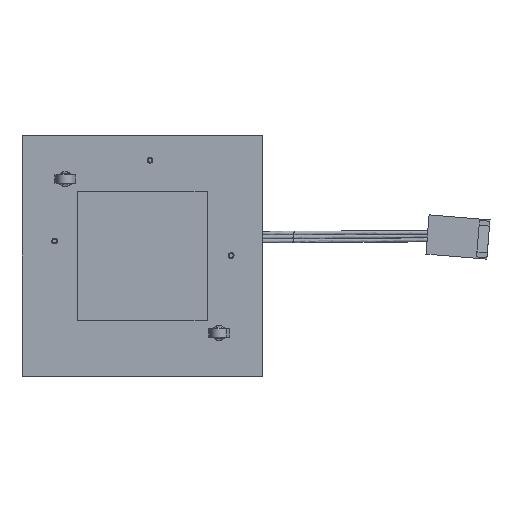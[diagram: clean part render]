
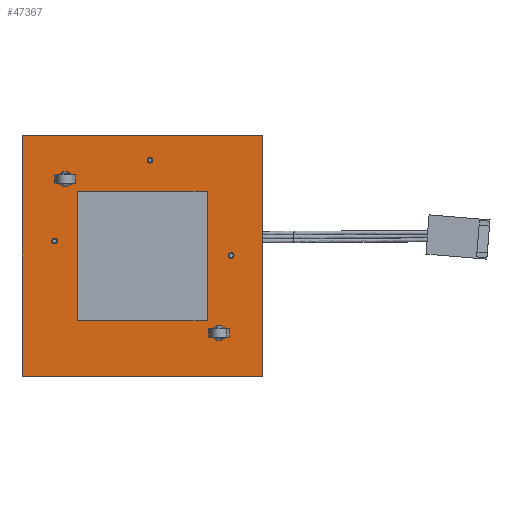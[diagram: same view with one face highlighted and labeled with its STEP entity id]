
A CAD part, front view. The second image highlights one B-rep face of the part: STEP entity #47367.
In plain terms, the highlighted planar face has unit normal (0, -1, 0).
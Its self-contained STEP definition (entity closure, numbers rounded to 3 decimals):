
#29 = VERTEX_POINT ( 'NONE', #31245 ) ;
#762 = ORIENTED_EDGE ( 'NONE', *, *, #18893, .T. ) ;
#968 = DIRECTION ( 'NONE',  ( 0., 1., 0. ) ) ;
#1519 = DIRECTION ( 'NONE',  ( 0., 0., -1. ) ) ;
#1526 = ORIENTED_EDGE ( 'NONE', *, *, #4429, .T. ) ;
#2016 = ORIENTED_EDGE ( 'NONE', *, *, #23884, .T. ) ;
#2365 = EDGE_CURVE ( 'NONE', #11297, #24873, #37771, .T. ) ;
#2623 = CIRCLE ( 'NONE', #53755, 0.6 ) ;
#2926 = DIRECTION ( 'NONE',  ( 0., 1., 0. ) ) ;
#3634 = EDGE_LOOP ( 'NONE', ( #39857, #13831 ) ) ;
#3747 = DIRECTION ( 'NONE',  ( 0., -1., 0. ) ) ;
#4184 = EDGE_CURVE ( 'NONE', #48953, #16510, #2623, .T. ) ;
#4429 = EDGE_CURVE ( 'NONE', #16510, #48953, #31728, .T. ) ;
#4550 = CIRCLE ( 'NONE', #35458, 1.6 ) ;
#4578 = CARTESIAN_POINT ( 'NONE',  ( 18.5, 0., -0.506 ) ) ;
#4762 = ORIENTED_EDGE ( 'NONE', *, *, #4184, .T. ) ;
#5336 = ORIENTED_EDGE ( 'NONE', *, *, #34346, .T. ) ;
#5402 = CARTESIAN_POINT ( 'NONE',  ( -16., 0., 16. ) ) ;
#5416 = CARTESIAN_POINT ( 'NONE',  ( -16., 0., 14.4 ) ) ;
#5977 = AXIS2_PLACEMENT_3D ( 'NONE', #18688, #40246, #19489 ) ;
#6447 = DIRECTION ( 'NONE',  ( 0., 0., -1. ) ) ;
#7012 = VECTOR ( 'NONE', #22236, 1000. ) ;
#7310 = FACE_OUTER_BOUND ( 'NONE', #36623, .T. ) ;
#7371 = CARTESIAN_POINT ( 'NONE',  ( -16., 0., 16. ) ) ;
#7533 = AXIS2_PLACEMENT_3D ( 'NONE', #49565, #11721, #25501 ) ;
#7587 = VERTEX_POINT ( 'NONE', #37886 ) ;
#7597 = FACE_BOUND ( 'NONE', #3634, .T. ) ;
#7876 = FACE_BOUND ( 'NONE', #32081, .T. ) ;
#7916 = DIRECTION ( 'NONE',  ( 0., 1., 0. ) ) ;
#8057 = DIRECTION ( 'NONE',  ( 0., 0., -1. ) ) ;
#8633 = CARTESIAN_POINT ( 'NONE',  ( -25., 0., 25. ) ) ;
#8721 = AXIS2_PLACEMENT_3D ( 'NONE', #47170, #38349, #13727 ) ;
#8723 = CARTESIAN_POINT ( 'NONE',  ( -18.236, 0., 3.115 ) ) ;
#9424 = CARTESIAN_POINT ( 'NONE',  ( -16., 0., 17.6 ) ) ;
#10978 = AXIS2_PLACEMENT_3D ( 'NONE', #7371, #11771, #53497 ) ;
#11297 = VERTEX_POINT ( 'NONE', #16162 ) ;
#11523 = CARTESIAN_POINT ( 'NONE',  ( 1.639, 0., 19.333 ) ) ;
#11721 = DIRECTION ( 'NONE',  ( 0., 1., 0. ) ) ;
#11771 = DIRECTION ( 'NONE',  ( 0., 1., 0. ) ) ;
#12097 = CARTESIAN_POINT ( 'NONE',  ( 1.639, 0., 19.933 ) ) ;
#12410 = EDGE_CURVE ( 'NONE', #7587, #47062, #19313, .T. ) ;
#13640 = VECTOR ( 'NONE', #42910, 1000. ) ;
#13727 = DIRECTION ( 'NONE',  ( 0., 0., -1. ) ) ;
#13831 = ORIENTED_EDGE ( 'NONE', *, *, #47280, .T. ) ;
#14329 = CARTESIAN_POINT ( 'NONE',  ( -25., 0., -25. ) ) ;
#14333 = CIRCLE ( 'NONE', #45215, 0.6 ) ;
#14503 = LINE ( 'NONE', #31366, #35693 ) ;
#14665 = EDGE_CURVE ( 'NONE', #24706, #20528, #54288, .T. ) ;
#15037 = ORIENTED_EDGE ( 'NONE', *, *, #53919, .F. ) ;
#15526 = EDGE_CURVE ( 'NONE', #47062, #30606, #17503, .T. ) ;
#15892 = CARTESIAN_POINT ( 'NONE',  ( 0., 0., 0. ) ) ;
#16162 = CARTESIAN_POINT ( 'NONE',  ( 16., 0., -17.6 ) ) ;
#16510 = VERTEX_POINT ( 'NONE', #34289 ) ;
#16596 = ORIENTED_EDGE ( 'NONE', *, *, #20378, .F. ) ;
#16618 = AXIS2_PLACEMENT_3D ( 'NONE', #36401, #2926, #49584 ) ;
#17503 = LINE ( 'NONE', #8633, #13640 ) ;
#17508 = CARTESIAN_POINT ( 'NONE',  ( 18.5, 0., 0.694 ) ) ;
#18688 = CARTESIAN_POINT ( 'NONE',  ( 18.5, 0., 0.094 ) ) ;
#18893 = EDGE_CURVE ( 'NONE', #24873, #11297, #32548, .T. ) ;
#19313 = LINE ( 'NONE', #14329, #24950 ) ;
#19489 = DIRECTION ( 'NONE',  ( 0., 0., -1. ) ) ;
#20309 = FACE_BOUND ( 'NONE', #29086, .T. ) ;
#20378 = EDGE_CURVE ( 'NONE', #29, #7587, #34444, .T. ) ;
#20385 = DIRECTION ( 'NONE',  ( 0., 1., 0. ) ) ;
#20528 = VERTEX_POINT ( 'NONE', #17508 ) ;
#20546 = EDGE_LOOP ( 'NONE', ( #4762, #1526 ) ) ;
#20863 = CARTESIAN_POINT ( 'NONE',  ( -25., 0., 25. ) ) ;
#21476 = CARTESIAN_POINT ( 'NONE',  ( -18.236, 0., 2.515 ) ) ;
#22236 = DIRECTION ( 'NONE',  ( 0., 0., -1. ) ) ;
#23884 = EDGE_CURVE ( 'NONE', #39793, #40144, #33957, .T. ) ;
#24706 = VERTEX_POINT ( 'NONE', #4578 ) ;
#24868 = ORIENTED_EDGE ( 'NONE', *, *, #49659, .T. ) ;
#24873 = VERTEX_POINT ( 'NONE', #32155 ) ;
#24950 = VECTOR ( 'NONE', #48032, 1000. ) ;
#25501 = DIRECTION ( 'NONE',  ( 0., 0., -1. ) ) ;
#28002 = ORIENTED_EDGE ( 'NONE', *, *, #12410, .F. ) ;
#28550 = VERTEX_POINT ( 'NONE', #11523 ) ;
#28914 = VERTEX_POINT ( 'NONE', #30790 ) ;
#28963 = DIRECTION ( 'NONE',  ( 0., 0., -1. ) ) ;
#29086 = EDGE_LOOP ( 'NONE', ( #49616, #762 ) ) ;
#29601 = DIRECTION ( 'NONE',  ( 0., 1., 0. ) ) ;
#30521 = AXIS2_PLACEMENT_3D ( 'NONE', #31339, #52331, #6447 ) ;
#30606 = VERTEX_POINT ( 'NONE', #20863 ) ;
#30790 = CARTESIAN_POINT ( 'NONE',  ( 1.639, 0., 20.533 ) ) ;
#31245 = CARTESIAN_POINT ( 'NONE',  ( 25., 0., 25. ) ) ;
#31339 = CARTESIAN_POINT ( 'NONE',  ( 1.639, 0., 19.933 ) ) ;
#31366 = CARTESIAN_POINT ( 'NONE',  ( -25., 0., 25. ) ) ;
#31728 = CIRCLE ( 'NONE', #49331, 0.6 ) ;
#32081 = EDGE_LOOP ( 'NONE', ( #5336, #50932 ) ) ;
#32155 = CARTESIAN_POINT ( 'NONE',  ( 16., 0., -14.4 ) ) ;
#32548 = CIRCLE ( 'NONE', #8721, 1.6 ) ;
#33767 = CARTESIAN_POINT ( 'NONE',  ( -18.236, 0., 3.115 ) ) ;
#33957 = CIRCLE ( 'NONE', #10978, 1.6 ) ;
#34289 = CARTESIAN_POINT ( 'NONE',  ( -18.236, 0., 3.715 ) ) ;
#34346 = EDGE_CURVE ( 'NONE', #28550, #28914, #14333, .T. ) ;
#34444 = LINE ( 'NONE', #43247, #7012 ) ;
#35458 = AXIS2_PLACEMENT_3D ( 'NONE', #5402, #968, #1519 ) ;
#35693 = VECTOR ( 'NONE', #45431, 1000. ) ;
#36401 = CARTESIAN_POINT ( 'NONE',  ( 16., 0., -16. ) ) ;
#36623 = EDGE_LOOP ( 'NONE', ( #16596, #15037, #39476, #28002 ) ) ;
#36921 = PLANE ( 'NONE',  #46612 ) ;
#37771 = CIRCLE ( 'NONE', #16618, 1.6 ) ;
#37886 = CARTESIAN_POINT ( 'NONE',  ( 25., 0., -25. ) ) ;
#38349 = DIRECTION ( 'NONE',  ( 0., 1., 0. ) ) ;
#39476 = ORIENTED_EDGE ( 'NONE', *, *, #15526, .F. ) ;
#39793 = VERTEX_POINT ( 'NONE', #9424 ) ;
#39857 = ORIENTED_EDGE ( 'NONE', *, *, #14665, .T. ) ;
#40144 = VERTEX_POINT ( 'NONE', #5416 ) ;
#40246 = DIRECTION ( 'NONE',  ( 0., 1., 0. ) ) ;
#41867 = FACE_BOUND ( 'NONE', #20546, .T. ) ;
#42138 = DIRECTION ( 'NONE',  ( 0., 0., -1. ) ) ;
#42172 = DIRECTION ( 'NONE',  ( 0., 0., -1. ) ) ;
#42910 = DIRECTION ( 'NONE',  ( 0., 0., 1. ) ) ;
#43247 = CARTESIAN_POINT ( 'NONE',  ( 25., 0., 25. ) ) ;
#44676 = EDGE_CURVE ( 'NONE', #28914, #28550, #45640, .T. ) ;
#45215 = AXIS2_PLACEMENT_3D ( 'NONE', #12097, #20385, #28963 ) ;
#45431 = DIRECTION ( 'NONE',  ( 1., 0., 0. ) ) ;
#45640 = CIRCLE ( 'NONE', #30521, 0.6 ) ;
#46459 = EDGE_LOOP ( 'NONE', ( #24868, #2016 ) ) ;
#46612 = AXIS2_PLACEMENT_3D ( 'NONE', #15892, #3747, #42138 ) ;
#46875 = CARTESIAN_POINT ( 'NONE',  ( -25., 0., -25. ) ) ;
#47062 = VERTEX_POINT ( 'NONE', #46875 ) ;
#47170 = CARTESIAN_POINT ( 'NONE',  ( 16., 0., -16. ) ) ;
#47280 = EDGE_CURVE ( 'NONE', #20528, #24706, #49182, .T. ) ;
#47367 = ADVANCED_FACE ( 'NONE', ( #50124, #20309, #7876, #41867, #7597, #7310 ), #36921, .T. ) ;
#48032 = DIRECTION ( 'NONE',  ( -1., 0., 0. ) ) ;
#48953 = VERTEX_POINT ( 'NONE', #21476 ) ;
#49182 = CIRCLE ( 'NONE', #5977, 0.6 ) ;
#49331 = AXIS2_PLACEMENT_3D ( 'NONE', #33767, #29601, #8057 ) ;
#49565 = CARTESIAN_POINT ( 'NONE',  ( 18.5, 0., 0.094 ) ) ;
#49584 = DIRECTION ( 'NONE',  ( 0., 0., -1. ) ) ;
#49616 = ORIENTED_EDGE ( 'NONE', *, *, #2365, .T. ) ;
#49659 = EDGE_CURVE ( 'NONE', #40144, #39793, #4550, .T. ) ;
#50124 = FACE_BOUND ( 'NONE', #46459, .T. ) ;
#50932 = ORIENTED_EDGE ( 'NONE', *, *, #44676, .T. ) ;
#52331 = DIRECTION ( 'NONE',  ( 0., 1., 0. ) ) ;
#53497 = DIRECTION ( 'NONE',  ( 0., 0., -1. ) ) ;
#53755 = AXIS2_PLACEMENT_3D ( 'NONE', #8723, #7916, #42172 ) ;
#53919 = EDGE_CURVE ( 'NONE', #30606, #29, #14503, .T. ) ;
#54288 = CIRCLE ( 'NONE', #7533, 0.6 ) ;
